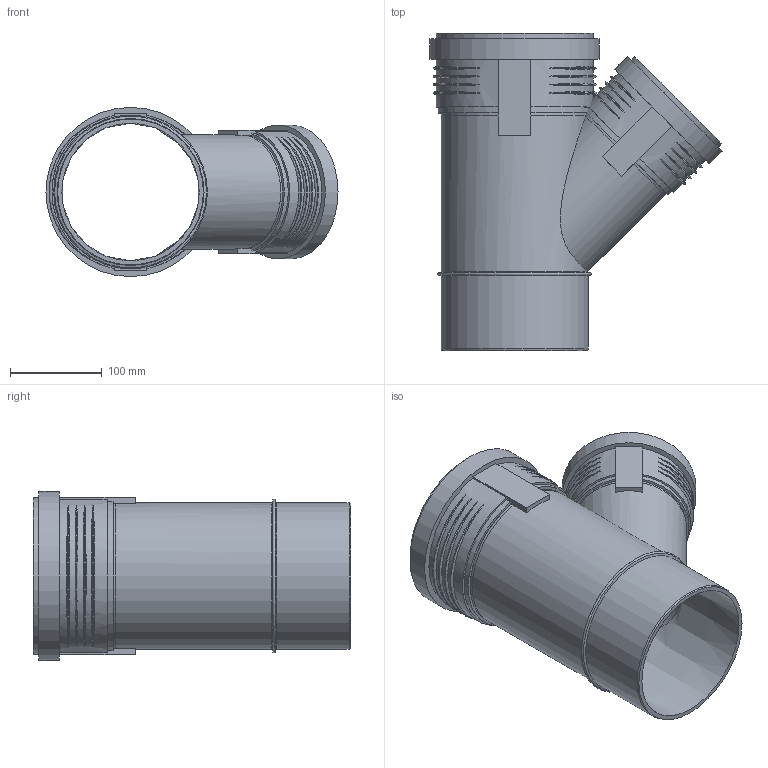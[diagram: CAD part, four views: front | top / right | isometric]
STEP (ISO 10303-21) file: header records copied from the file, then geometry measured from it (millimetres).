
FILE_DESCRIPTION(/* description */ (''),/* implementation_level */ '2;1');
FILE_NAME(/* name */ 'Z:\Geberit\Export\NewStep\390736.stp',/* time_stamp */ '2014-04-02T08:16:49+02:00',/* author */ ('ML'),/* organization */ (''),/* preprocessor_version */ 'ST-DEVELOPER v15.2',/* originating_system */ 'Autodesk Inventor 2014',/* authorisation */ '');
FILE_SCHEMA (('AUTOMOTIVE_DESIGN { 1 0 10303 214 3 1 1 }'));
Length unit declared in the file: millimetre
Products named in the file (4): 861605; 861625; 861560; 390736
Bounding box: 318.55 x 346.5 x 184.5 mm (x, y, z)
Volume: 1160284.4 mm3; surface area: 507930.9 mm2
Topology: 3 solids, 3 shells, 127 faces, 311 edges, 216 vertices
Faces by surface type: torus 50, plane 37, cylinder 31, cone 9
Full cylindrical faces by diameter (mm): 116.8 x1, 117 x1, 125.2 x1, 126.4 x2, 134.6 x1, 137.7 x1, 145.9 x1, 150.65 x1, 160.25 x3, 161.7 x2, 171.3 x1, 174.9 x1, 184.5 x1
Entity records: 5307 total; most frequent: CARTESIAN_POINT 2316, ORIENTED_EDGE 556, DIRECTION 546, EDGE_CURVE 278, AXIS2_PLACEMENT_3D 237, VERTEX_POINT 208, EDGE_LOOP 186, ADVANCED_FACE 127
